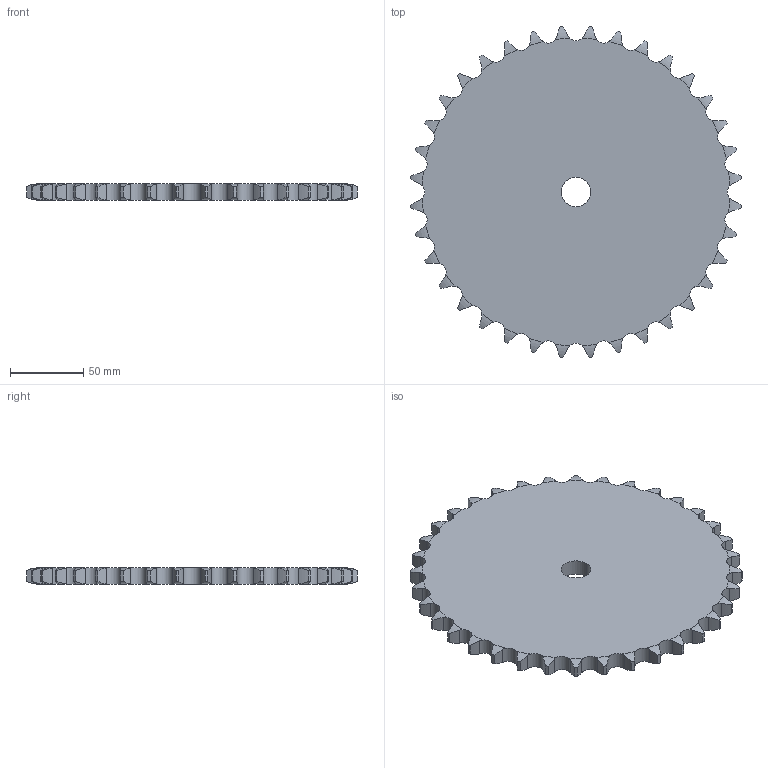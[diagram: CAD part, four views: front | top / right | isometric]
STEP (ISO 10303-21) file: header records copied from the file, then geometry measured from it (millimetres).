
FILE_DESCRIPTION((''),'2;1');
FILE_NAME('500-401-0036_PRT','2021-02-12T',('Brieden'),('Brieden'),'PRO/ENGINEER BY PARAMETRIC TECHNOLOGY CORPORATION, 2010160','PRO/ENGINEER BY PARAMETRIC TECHNOLOGY CORPORATION, 2010160','');
FILE_SCHEMA(('AUTOMOTIVE_DESIGN { 1 0 10303 214 1 1 1 1 }'));
Length unit declared in the file: millimetre
Products named in the file (1): 500-401-0036_PRT
Bounding box: 225.7 x 225.7 x 11.1 mm (x, y, z)
Volume: 394170.3 mm3; surface area: 82879.6 mm2
Topology: 1 solids, 1 shells, 220 faces, 654 edges, 436 vertices
Faces by surface type: cylinder 146, torus 72, plane 2
Entity records: 10792 total; most frequent: CARTESIAN_POINT 3207, ORIENTED_EDGE 1308, DIRECTION 1026, PRESENTATION_STYLE_ASSIGNMENT 655, STYLED_ITEM 655, CURVE_STYLE 654, EDGE_CURVE 654, AXIS2_PLACEMENT_3D 440
